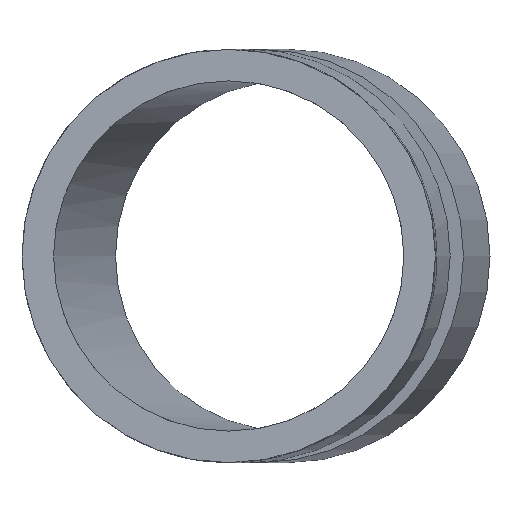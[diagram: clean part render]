
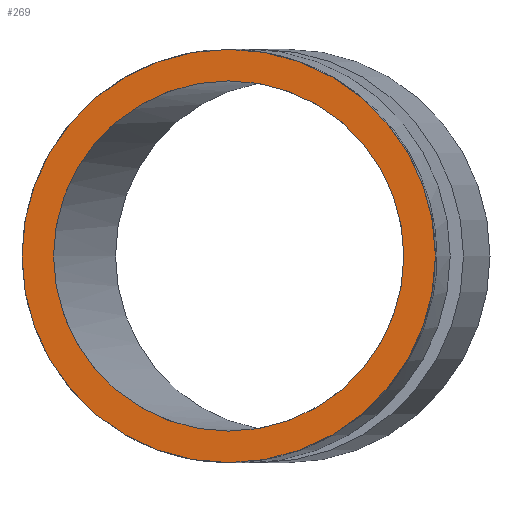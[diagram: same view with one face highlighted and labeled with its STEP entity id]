
A CAD part, front view. The second image highlights one B-rep face of the part: STEP entity #269.
In plain terms, the highlighted planar face has unit normal (0, -1, 0).
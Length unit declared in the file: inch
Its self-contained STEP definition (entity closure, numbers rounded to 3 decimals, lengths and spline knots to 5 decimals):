
#19=FACE_BOUND('',#103,.T.);
#25=PLANE('',#328);
#56=CIRCLE('',#325,0.805);
#57=CIRCLE('',#327,0.95);
#81=FACE_OUTER_BOUND('',#102,.T.);
#102=EDGE_LOOP('',(#233));
#103=EDGE_LOOP('',(#234));
#134=VERTEX_POINT('',#560);
#135=VERTEX_POINT('',#564);
#165=EDGE_CURVE('',#134,#134,#56,.T.);
#168=EDGE_CURVE('',#135,#135,#57,.T.);
#233=ORIENTED_EDGE('',*,*,#168,.T.);
#234=ORIENTED_EDGE('',*,*,#165,.T.);
#269=ADVANCED_FACE('',(#81,#19),#25,.F.);
#325=AXIS2_PLACEMENT_3D('',#561,#407,#408);
#327=AXIS2_PLACEMENT_3D('',#566,#413,#414);
#328=AXIS2_PLACEMENT_3D('',#567,#415,#416);
#407=DIRECTION('center_axis',(0.,1.,0.));
#408=DIRECTION('ref_axis',(1.,0.,0.));
#413=DIRECTION('center_axis',(0.,-1.,0.));
#414=DIRECTION('ref_axis',(1.,0.,0.));
#415=DIRECTION('center_axis',(0.,1.,0.));
#416=DIRECTION('ref_axis',(0.,0.,1.));
#560=CARTESIAN_POINT('',(-0.805,0.,0.));
#561=CARTESIAN_POINT('Origin',(0.,0.,0.));
#564=CARTESIAN_POINT('',(-0.95,0.,0.));
#566=CARTESIAN_POINT('Origin',(0.,0.,0.));
#567=CARTESIAN_POINT('Origin',(0.,0.,0.));
